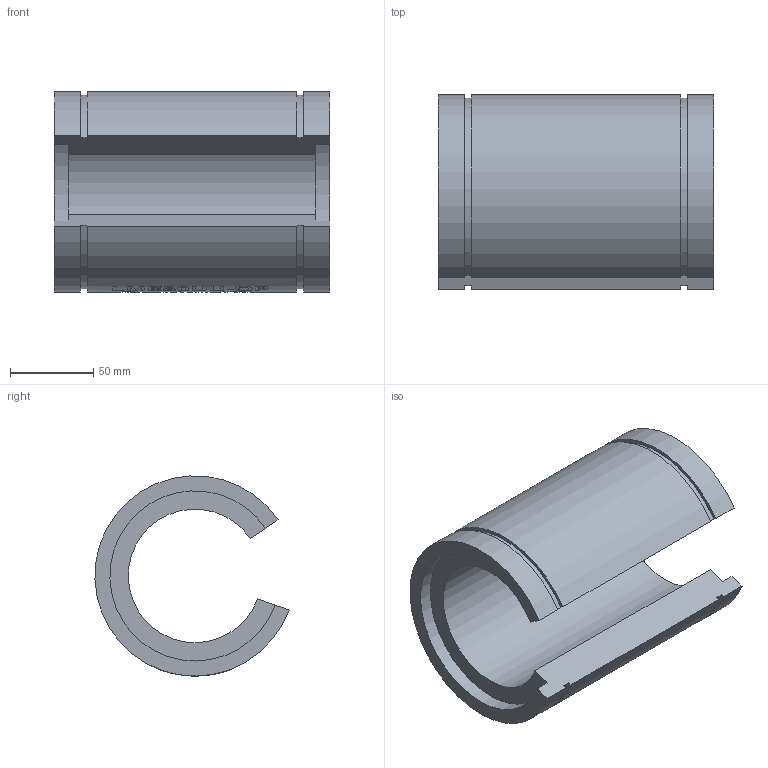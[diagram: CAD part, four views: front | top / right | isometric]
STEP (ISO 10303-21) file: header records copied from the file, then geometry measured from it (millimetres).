
FILE_DESCRIPTION(/* description */ (''),/* implementation_level */ '2;1');
FILE_NAME(/* name */ 'LME80UU-OP',/* time_stamp */ '2019-07-02T16:23:32+02:00',/* author */ ('VĂ©gh MĂˇtĂ©'),/* organization */ ('Bearing Kft'),/* preprocessor_version */ 'ST-DEVELOPER v16.7',/* originating_system */ 'DEX',/* authorisation */ $);
FILE_SCHEMA (('AUTOMOTIVE_DESIGN {1 0 10303 214 3 1 1}'));
Length unit declared in the file: millimetre
Products named in the file (1): LME80UU-OP
Bounding box: 165 x 116.35 x 119.91 mm (x, y, z)
Volume: 831829.8 mm3; surface area: 108569.2 mm2
Topology: 1 solids, 1 shells, 334 faces, 837 edges, 558 vertices
Faces by surface type: plane 175, bspline 98, cylinder 61
Entity records: 23984 total; most frequent: CARTESIAN_POINT 16483, ORIENTED_EDGE 1660, DIRECTION 1266, EDGE_CURVE 830, VERTEX_POINT 558, LINE 468, VECTOR 468, AXIS2_PLACEMENT_3D 399
